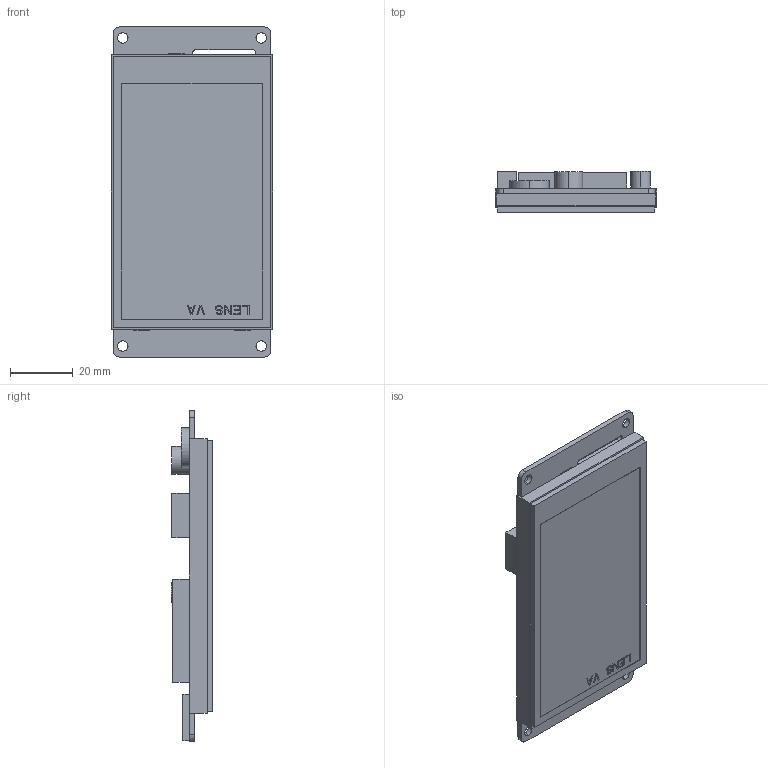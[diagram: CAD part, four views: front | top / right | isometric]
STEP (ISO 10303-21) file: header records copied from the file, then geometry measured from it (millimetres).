
FILE_DESCRIPTION((''),'2;1');
FILE_NAME('DMG80480K035-03WTC_ASM','2022-02-22T',('Administrator'),(''),'PRO/ENGINEER BY PARAMETRIC TECHNOLOGY CORPORATION, 2014320','PRO/ENGINEER BY PARAMETRIC TECHNOLOGY CORPORATION, 2014320','');
FILE_SCHEMA(('CONFIG_CONTROL_DESIGN','SHAPE_APPEARANCE_LAYERS_GROUPS'));
Length unit declared in the file: millimetre
Products named in the file (5): TK035020; LI48800T035BA3004; PCB; TPC035C0004G01V1; DMG80480K035-03WTC_ASM
Assembly tree (4 placements, depth 2):
  DMG80480K035-03WTC_ASM
    TK035020
    LI48800T035BA3004
    PCB
    TPC035C0004G01V1
Bounding box: 51.26 x 13.18 x 105 mm (x, y, z)
Volume: 33703.9 mm3; surface area: 35608.8 mm2
Topology: 4 solids, 4 shells, 237 faces, 630 edges, 420 vertices
Faces by surface type: plane 215, cylinder 22
Entity records: 7504 total; most frequent: CARTESIAN_POINT 1296, ORIENTED_EDGE 1260, DIRECTION 1166, EDGE_CURVE 630, VECTOR 586, LINE 586, VERTEX_POINT 420, AXIS2_PLACEMENT_3D 290
